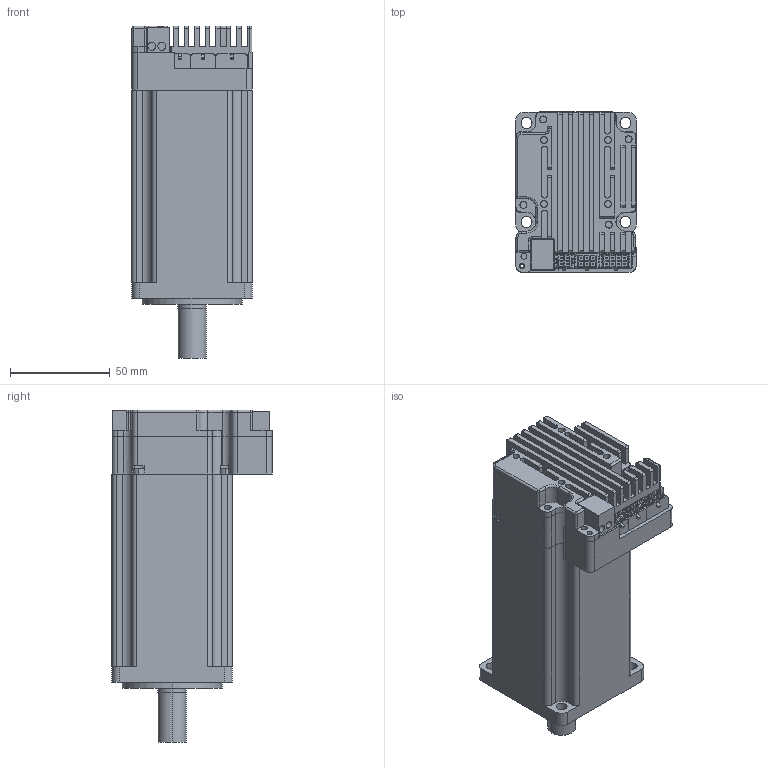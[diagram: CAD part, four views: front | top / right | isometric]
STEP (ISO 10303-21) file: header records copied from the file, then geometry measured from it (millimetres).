
FILE_DESCRIPTION (( 'STEP AP214' ), '1' );
FILE_NAME ('FCMT24P60600W.STEP', '2023-11-15T08:25:00', ( 'shaun' ), ( '' ), 'SwSTEP 2.0', 'SolidWorks 2020', '' );
FILE_SCHEMA (( 'AUTOMOTIVE_DESIGN' ));
Length unit declared in the file: millimetre
Products named in the file (3): FCMT24P60600W; WHOLE_CONTROLLER; 600W
Assembly tree (2 placements, depth 2):
  FCMT24P60600W
    600W
    WHOLE_CONTROLLER
Bounding box: 60.3 x 80.15 x 166 mm (x, y, z)
Volume: 412312 mm3; surface area: 121752.5 mm2
Topology: 291 solids, 291 shells, 3495 faces, 8287 edges, 5450 vertices
Faces by surface type: plane 1804, cylinder 1673, torus 7, sphere 5, cone 4, bspline 2
Entity records: 143441 total; most frequent: DIRECTION 18636, CARTESIAN_POINT 17308, ORIENTED_EDGE 16564, EDGE_CURVE 8282, AXIS2_PLACEMENT_3D 6866, VERTEX_POINT 5450, VECTOR 4904, LINE 4904
